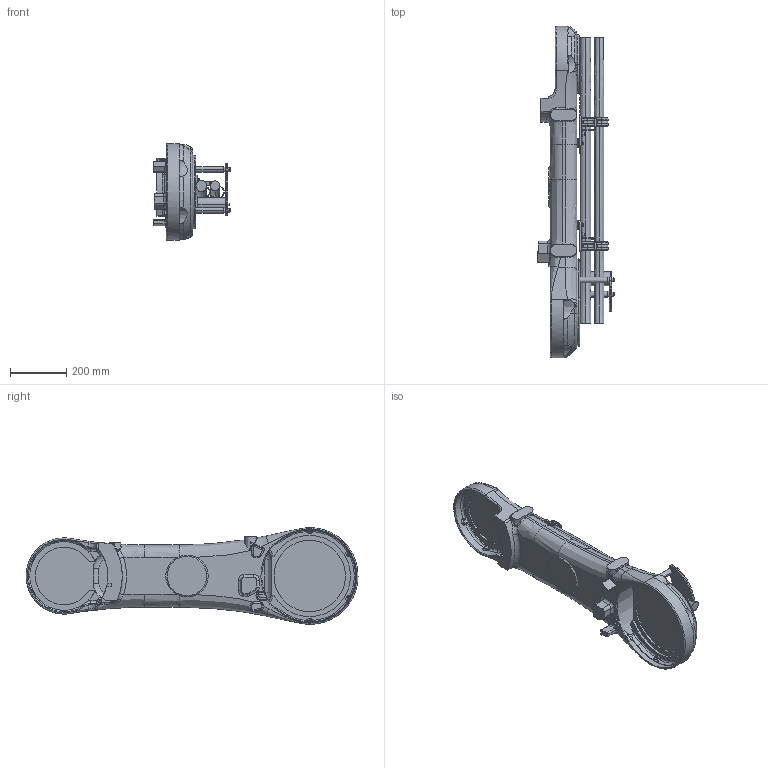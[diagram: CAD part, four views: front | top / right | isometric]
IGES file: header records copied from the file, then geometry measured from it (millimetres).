
Start section:  PTC IGES file: l_axis_gp110_sw1.igs
Global section: file name: l_axis_gp110_sw1.igs; native system: Creo Parametric by Parametric Technology Corporation; preprocessor: 2015030; author: robo228; organization: Unknown; date: 20171226.145543; units: millimetre
Bounding box: 270.2 x 1176 x 341.61 mm (x, y, z)
Volume: 21643931.3 mm3; surface area: 1377684 mm2
Topology: 1 solids, 7 shells, 1113 faces, 2828 edges, 1798 vertices
Faces by surface type: revolution 636, bspline 469, extrusion 8
